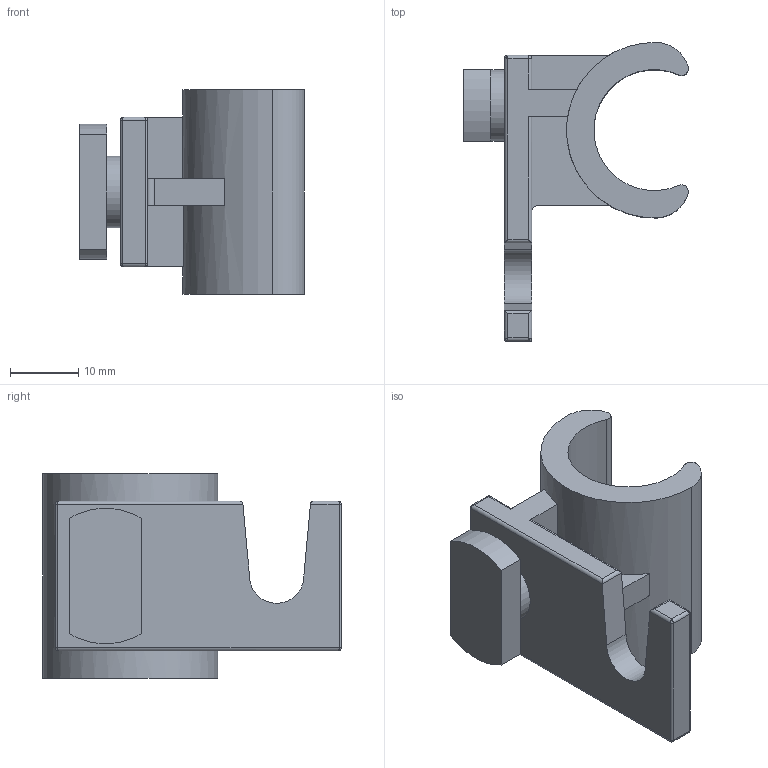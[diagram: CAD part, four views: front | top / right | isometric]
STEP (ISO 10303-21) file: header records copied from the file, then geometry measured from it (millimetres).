
FILE_DESCRIPTION((''),'2;1');
FILE_NAME('C:\Vault Klient\Projekt\Step\300-1030.stp','2009-12-04T10:04:57',('Mathias'),(''),'Autodesk Inventor 2010','Autodesk Inventor 2010','');
FILE_SCHEMA(('CONFIG_CONTROL_DESIGN'));
Length unit declared in the file: millimetre
Products named in the file (1): 300-1030
Bounding box: 33 x 43.88 x 30 mm (x, y, z)
Volume: 10298 mm3; surface area: 6080.2 mm2
Topology: 1 solids, 1 shells, 65 faces, 165 edges, 96 vertices
Faces by surface type: cylinder 30, plane 27, bspline 6, sphere 2
Full cylindrical faces by diameter (mm): 10.5 x1
Entity records: 2028 total; most frequent: CARTESIAN_POINT 460, DIRECTION 342, ORIENTED_EDGE 310, EDGE_CURVE 155, AXIS2_PLACEMENT_3D 127, VERTEX_POINT 95, VECTOR 88, LINE 88
